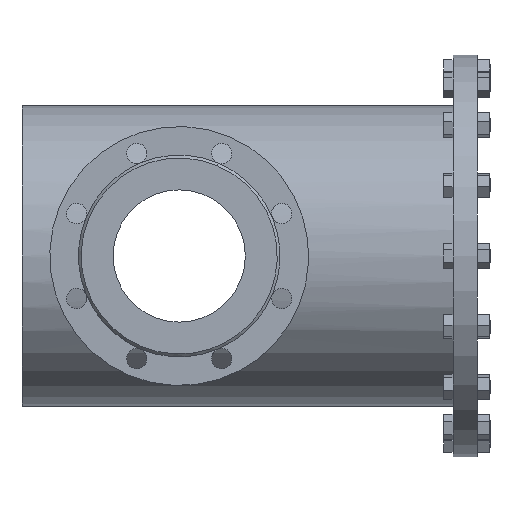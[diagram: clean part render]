
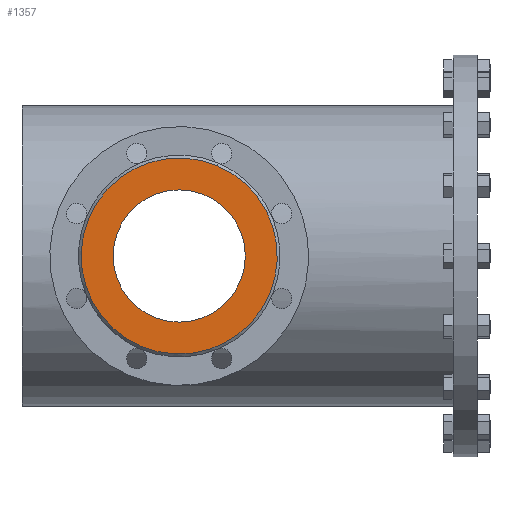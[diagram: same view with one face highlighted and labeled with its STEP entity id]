
A CAD part, left-side view. The second image highlights one B-rep face of the part: STEP entity #1357.
In plain terms, the highlighted planar face has unit normal (-1, 0, 0).
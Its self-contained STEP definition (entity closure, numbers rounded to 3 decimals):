
#512 = EDGE_CURVE ( 'NONE', #8507, #697, #10886, .T. ) ;
#598 = AXIS2_PLACEMENT_3D ( 'NONE', #4072, #10155, #9345 ) ;
#696 = DIRECTION ( 'NONE',  ( -1., 0., 0. ) ) ;
#697 = VERTEX_POINT ( 'NONE', #5076 ) ;
#1357 = ADVANCED_FACE ( 'NONE', ( #9219, #6634 ), #5236, .F. ) ;
#1853 = CIRCLE ( 'NONE', #7700, 106. ) ;
#2106 = ORIENTED_EDGE ( 'NONE', *, *, #11224, .F. ) ;
#2230 = CARTESIAN_POINT ( 'NONE',  ( -263., 259.436, 97.931 ) ) ;
#2469 = VERTEX_POINT ( 'NONE', #2230 ) ;
#2488 = DIRECTION ( 'NONE',  ( 0., 0.383, -0.924 ) ) ;
#2516 = DIRECTION ( 'NONE',  ( 0., -0.383, 0.924 ) ) ;
#2544 = CARTESIAN_POINT ( 'NONE',  ( -263., 300., 0. ) ) ;
#2606 = DIRECTION ( 'NONE',  ( 1., 0., 0. ) ) ;
#2743 = ORIENTED_EDGE ( 'NONE', *, *, #7769, .T. ) ;
#2858 = VERTEX_POINT ( 'NONE', #4550 ) ;
#2908 = CARTESIAN_POINT ( 'NONE',  ( -263., 300., 71.5 ) ) ;
#3452 = CARTESIAN_POINT ( 'NONE',  ( -263., 300., 0. ) ) ;
#4026 = DIRECTION ( 'NONE',  ( -1., 0., 0. ) ) ;
#4072 = CARTESIAN_POINT ( 'NONE',  ( -263., 300., 0. ) ) ;
#4375 = CIRCLE ( 'NONE', #10811, 106. ) ;
#4550 = CARTESIAN_POINT ( 'NONE',  ( -263., 340.564, -97.931 ) ) ;
#4831 = AXIS2_PLACEMENT_3D ( 'NONE', #9597, #5919, #5124 ) ;
#5076 = CARTESIAN_POINT ( 'NONE',  ( -263., 300., -71.5 ) ) ;
#5124 = DIRECTION ( 'NONE',  ( 0., 0., -1. ) ) ;
#5236 = PLANE ( 'NONE',  #6116 ) ;
#5247 = EDGE_CURVE ( 'NONE', #2858, #2469, #4375, .T. ) ;
#5919 = DIRECTION ( 'NONE',  ( -1., 0., 0. ) ) ;
#6116 = AXIS2_PLACEMENT_3D ( 'NONE', #2544, #2606, #2488 ) ;
#6291 = CIRCLE ( 'NONE', #4831, 71.5 ) ;
#6634 = FACE_OUTER_BOUND ( 'NONE', #8973, .T. ) ;
#6888 = EDGE_LOOP ( 'NONE', ( #2106, #7400 ) ) ;
#7400 = ORIENTED_EDGE ( 'NONE', *, *, #512, .F. ) ;
#7664 = ORIENTED_EDGE ( 'NONE', *, *, #5247, .T. ) ;
#7700 = AXIS2_PLACEMENT_3D ( 'NONE', #3452, #696, #7870 ) ;
#7769 = EDGE_CURVE ( 'NONE', #2469, #2858, #1853, .T. ) ;
#7870 = DIRECTION ( 'NONE',  ( 0., -0.383, 0.924 ) ) ;
#8375 = CARTESIAN_POINT ( 'NONE',  ( -263., 300., 0. ) ) ;
#8507 = VERTEX_POINT ( 'NONE', #2908 ) ;
#8973 = EDGE_LOOP ( 'NONE', ( #7664, #2743 ) ) ;
#9219 = FACE_BOUND ( 'NONE', #6888, .T. ) ;
#9345 = DIRECTION ( 'NONE',  ( 0., 0., -1. ) ) ;
#9597 = CARTESIAN_POINT ( 'NONE',  ( -263., 300., 0. ) ) ;
#10155 = DIRECTION ( 'NONE',  ( -1., 0., 0. ) ) ;
#10811 = AXIS2_PLACEMENT_3D ( 'NONE', #8375, #4026, #2516 ) ;
#10886 = CIRCLE ( 'NONE', #598, 71.5 ) ;
#11224 = EDGE_CURVE ( 'NONE', #697, #8507, #6291, .T. ) ;
